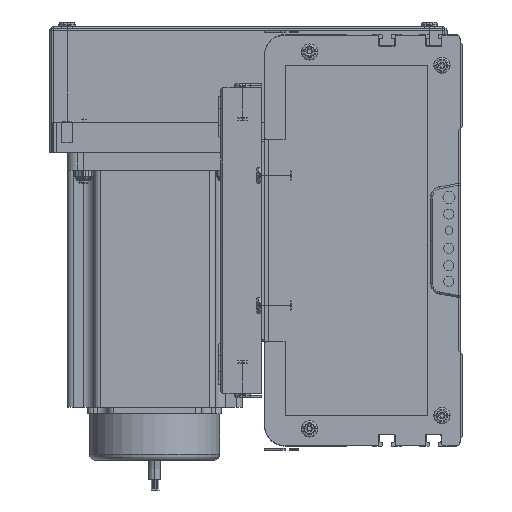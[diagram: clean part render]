
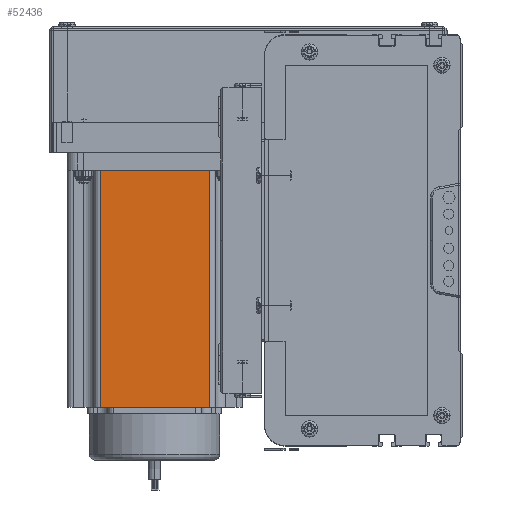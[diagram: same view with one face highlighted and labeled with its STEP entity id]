
A CAD part, left-side view. The second image highlights one B-rep face of the part: STEP entity #52436.
In plain terms, the highlighted planar face has unit normal (-1, 0, 0) as drawn and (0, -1, 0) by its records, which use the part's own axes.
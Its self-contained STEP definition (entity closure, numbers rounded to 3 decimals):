
#52404 = EDGE_CURVE ( 'NONE', #52696, #52755, #151437, .T. ) ;
#52409 = ORIENTED_EDGE ( 'NONE', *, *, #52437, .F. ) ;
#52411 = ORIENTED_EDGE ( 'NONE', *, *, #52809, .T. ) ;
#52436 = ADVANCED_FACE ( 'NONE', ( #151413 ), #151415, .F. ) ;
#52437 = EDGE_CURVE ( 'NONE', #52703, #52752, #151070, .T. ) ;
#52523 = ORIENTED_EDGE ( 'NONE', *, *, #52404, .T. ) ;
#52696 = VERTEX_POINT ( 'NONE', #151756 ) ;
#52703 = VERTEX_POINT ( 'NONE', #151760 ) ;
#52706 = ORIENTED_EDGE ( 'NONE', *, *, #52710, .T. ) ;
#52710 = EDGE_CURVE ( 'NONE', #52703, #52696, #151817, .T. ) ;
#52752 = VERTEX_POINT ( 'NONE', #151819 ) ;
#52755 = VERTEX_POINT ( 'NONE', #151735 ) ;
#52809 = EDGE_CURVE ( 'NONE', #52755, #52752, #151937, .T. ) ;
#52821 = EDGE_LOOP ( 'NONE', ( #52523, #52411, #52409, #52706 ) ) ;
#151034 = DIRECTION ( 'NONE',  ( 0., 1., 0. ) ) ;
#151057 = DIRECTION ( 'NONE',  ( 1., 0., 0. ) ) ;
#151058 = VECTOR ( 'NONE', #151057, 1000. ) ;
#151060 = CARTESIAN_POINT ( 'NONE',  ( 0., 0., 116.5 ) ) ;
#151066 = DIRECTION ( 'NONE',  ( 0., 0., 1. ) ) ;
#151070 = LINE ( 'NONE', #151060, #151058 ) ;
#151266 = AXIS2_PLACEMENT_3D ( 'NONE', #151426, #151034, #151066 ) ;
#151317 = DIRECTION ( 'NONE',  ( 1., 0., 0. ) ) ;
#151318 = CARTESIAN_POINT ( 'NONE',  ( 0., 0., 0. ) ) ;
#151343 = VECTOR ( 'NONE', #151317, 1000. ) ;
#151413 = FACE_OUTER_BOUND ( 'NONE', #52821, .T. ) ;
#151415 = PLANE ( 'NONE',  #151266 ) ;
#151426 = CARTESIAN_POINT ( 'NONE',  ( 0., 0., 116.5 ) ) ;
#151437 = LINE ( 'NONE', #151318, #151343 ) ;
#151735 = CARTESIAN_POINT ( 'NONE',  ( 69.74, 0., 0. ) ) ;
#151756 = CARTESIAN_POINT ( 'NONE',  ( 16.16, 0., 0. ) ) ;
#151760 = CARTESIAN_POINT ( 'NONE',  ( 16.16, 0., 116.5 ) ) ;
#151814 = DIRECTION ( 'NONE',  ( 0., 0., -1. ) ) ;
#151815 = VECTOR ( 'NONE', #151814, 1000. ) ;
#151816 = CARTESIAN_POINT ( 'NONE',  ( 16.16, 0., 116.5 ) ) ;
#151817 = LINE ( 'NONE', #151816, #151815 ) ;
#151819 = CARTESIAN_POINT ( 'NONE',  ( 69.74, 0., 116.5 ) ) ;
#151921 = DIRECTION ( 'NONE',  ( 0., 0., 1. ) ) ;
#151922 = VECTOR ( 'NONE', #151921, 1000. ) ;
#151923 = CARTESIAN_POINT ( 'NONE',  ( 69.74, 0., 116.5 ) ) ;
#151937 = LINE ( 'NONE', #151923, #151922 ) ;
